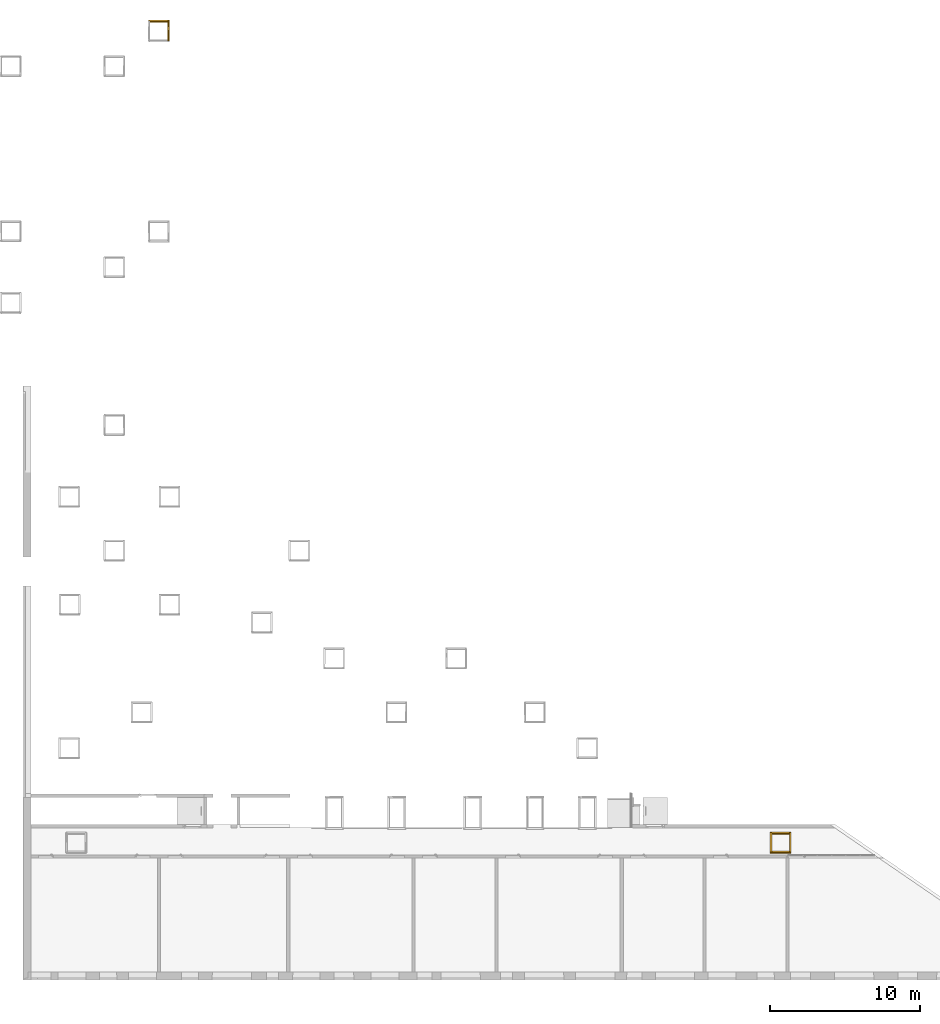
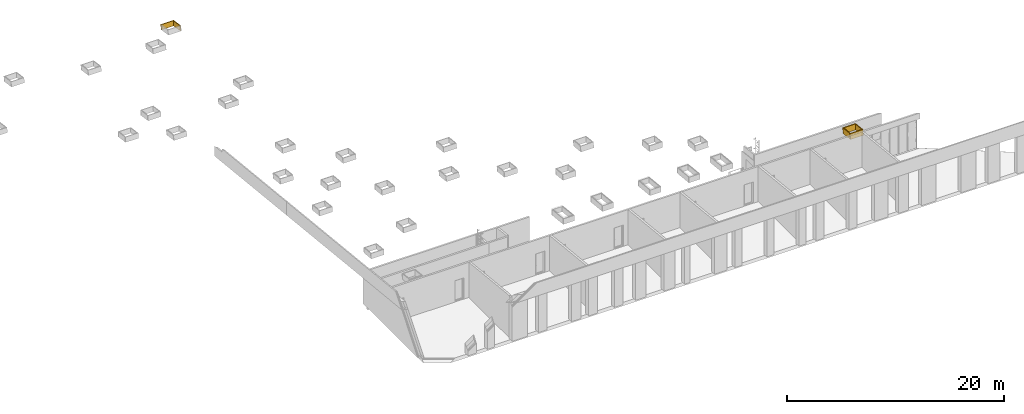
# One storey, part 22 of 23: 6 coverings.
"""IFC2X3 building model written with IfcOpenShell, lengths in millimetres."""

from ifc_helpers import new_model, entity, si_unit, converted_unit, derived_unit, money_unit, direction, frame, origin_with_axes, place, context, subcontext, project, spatial, faceted_brep, material, material_list, type_object, element, save


model = new_model("IFC2X3")

# Units and contexts
model_context = context("Model", 3, precision=0.01, world=origin_with_axes(), true_north=direction((0.0, 1.0)))
body_context = subcontext(model_context, "Body", "Model", "MODEL_VIEW")
ifc_project = project(units=[si_unit("LENGTHUNIT", "METRE", prefix="MILLI"), si_unit("AREAUNIT", "SQUARE_METRE"), si_unit("VOLUMEUNIT", "CUBIC_METRE"), converted_unit("PLANEANGLEUNIT", "DEGREE", entity("IfcPlaneAngleMeasure", 0.0174532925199), si_unit("PLANEANGLEUNIT", "RADIAN"), dimensions=[0, 0, 0, 0, 0, 0, 0]), si_unit("SOLIDANGLEUNIT", "STERADIAN"), money_unit("EUR"), converted_unit("TIMEUNIT", "Year", entity("IfcTimeMeasure", 31556926.0), si_unit("TIMEUNIT", "SECOND"), dimensions=[0, 0, 1, 0, 0, 0, 0]), si_unit("MASSUNIT", "GRAM", prefix="KILO"), si_unit("THERMODYNAMICTEMPERATUREUNIT", "DEGREE_CELSIUS"), si_unit("LUMINOUSINTENSITYUNIT", "LUMEN"), si_unit("ENERGYUNIT", "JOULE", prefix="MEGA"), derived_unit("THERMALCONDUCTANCEUNIT", [(si_unit("POWERUNIT", "WATT"), 1), (si_unit("LENGTHUNIT", "METRE"), -1), (si_unit("THERMODYNAMICTEMPERATUREUNIT", "KELVIN"), -1)]), derived_unit("SPECIFICHEATCAPACITYUNIT", [(si_unit("ENERGYUNIT", "JOULE"), 1), (si_unit("MASSUNIT", "GRAM", prefix="KILO"), -1), (si_unit("THERMODYNAMICTEMPERATUREUNIT", "KELVIN"), -1)]), derived_unit("MASSDENSITYUNIT", [(si_unit("MASSUNIT", "GRAM", prefix="KILO"), 1), (si_unit("VOLUMEUNIT", "CUBIC_METRE"), -1)])], contexts=[model_context])

# Site, building, storey
site_placement = place(None, origin_with_axes())
site = spatial("IfcSite", under=ifc_project, at=site_placement, Name="L.Koidula tn 11b", CompositionType="ELEMENT")
building_placement = place(site_placement, origin_with_axes())
building = spatial("IfcBuilding", under=site, at=building_placement, Name="Rakvere Riigigümnaasium", CompositionType="ELEMENT")
storey_placement = place(building_placement, frame((0.0, 0.0, 7440.0), z_axis=(0.0, 0.0, 1.0), x_axis=(1.0, 0.0, 0.0)))
storey = spatial("IfcBuildingStorey", under=building, at=storey_placement, Name="3.korrus +7,44", CompositionType="ELEMENT", Elevation=7440.0)

# Coverings
ifc_material_1 = material(Name="SKR-02_Kipsplaat")
ifc_material_2 = material(Name="mineraalvill+karkass")
ifc_material_list_1 = material_list([ifc_material_1, ifc_material_1, ifc_material_2])
covering_type = type_object("IfcCoveringType", Name="SA-2xkips 91", PredefinedType="NOTDEFINED")
covering_1_placement = place(storey_placement, frame((85920.1960522, 14659.9358778, 3149.115021), z_axis=(0.0, 0.0, 1.0), x_axis=(-1.0, 0.0, 0.0)))
element("IfcCovering", 1, at=covering_1_placement, inside=storey, type_object=covering_type, material=ifc_material_list_1, Name="Ava-pinnakate", PredefinedType="NOTDEFINED", context=body_context, shape_type="Brep", body=[
    faceted_brep([(1212.48869228, -78.3730372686, 626.084987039), (-12.5112151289, -78.3730372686, 626.084987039), (-12.5019195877, -13.4136312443, 8.03752339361), (1212.49807613, -13.4136312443, 8.03752339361), (-12.5094362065, -65.9415135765, 627.39159283), (1212.4904881, -65.9415135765, 627.39159283), (-12.5001406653, -0.982107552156, 9.34412918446), (1212.49987195, -0.982107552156, 9.34412918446)], [[[0, 1, 2, 3]], [[4, 1, 0, 5]], [[1, 4, 6, 2]], [[7, 3, 2, 6]], [[5, 0, 3, 7]], [[4, 5, 7, 6]]]),
    faceted_brep([(1224.98689659, -90.8045609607, 624.778381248), (-25.0129941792, -90.8045609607, 624.778381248), (-25.003698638, -25.8451549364, 6.73091760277), (1224.99628043, -25.8451549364, 6.73091760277), (-25.0112152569, -78.3730372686, 626.084987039), (1224.98869241, -78.3730372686, 626.084987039), (-25.0019197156, -13.4136312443, 8.03752339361), (1224.99807626, -13.4136312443, 8.03752339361)], [[[0, 1, 2, 3]], [[4, 1, 0, 5]], [[1, 4, 6, 2]], [[7, 3, 2, 6]], [[5, 0, 3, 7]], [[4, 5, 7, 6]]]),
    faceted_brep([(1290.97741533, -156.443006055, 617.879502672), (-91.0223875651, -156.443006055, 617.879502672), (-91.0130945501, -91.5012534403, 0.0), (1290.98679663, -91.5012534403, 0.0), (-91.012994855, -90.8045609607, 624.778381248), (1290.98689727, -90.8045609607, 624.778381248), (-91.0036993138, -25.8451549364, 6.73091760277), (-91.0128633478, -89.8855581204, 0.0), (1290.98703003, -89.8855581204, 0.0), (1290.99628112, -25.8451549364, 6.73091760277)], [[[0, 1, 2, 3]], [[4, 1, 0, 5]], [[1, 4, 6, 7, 2]], [[2, 7, 8, 3]], [[5, 0, 3, 8, 9]], [[4, 5, 9, 6]], [[9, 8, 7, 6]]]),
])
covering_2_placement = place(storey_placement, frame((84720.0237785, 13467.4708443, 3283.69533693), z_axis=(0.0, 0.0, 1.0), x_axis=(1.0, 0.0, 0.0)))
element("IfcCovering", 2, at=covering_2_placement, inside=storey, type_object=covering_type, material=ifc_material_list_1, Name="Ava-pinnakate", PredefinedType="NOTDEFINED", context=body_context, shape_type="Brep", body=[
    faceted_brep([(-12.4906132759, 64.9802177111, 618.245438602), (1212.51093339, 64.9802177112, 618.245438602), (1212.50163785, 0.0208080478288, 0.197975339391), (-12.4999971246, 0.020808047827, 0.197975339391), (1212.50915447, 52.5486903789, 619.552044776), (-12.4924090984, 52.5486903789, 619.552044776), (1212.49985893, -12.4107156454, 1.50458113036), (-12.5017929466, -12.4107156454, 1.50458113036)], [[[0, 1, 2, 3]], [[4, 1, 0, 5]], [[1, 4, 6, 2]], [[7, 3, 2, 6]], [[5, 0, 3, 7]], [[4, 5, 7, 6]]]),
    faceted_brep([(-24.9924092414, 52.5486903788, 619.552044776), (1225.00915462, 52.548690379, 619.552044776), (1224.9998596, -12.4107156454, 1.50458113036), (-25.0017917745, -12.4107156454, 1.50458113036), (1225.00737569, 40.1171666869, 620.858650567), (-24.9942050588, 40.1171666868, 620.858650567), (1224.99808067, -24.8422393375, 2.81118692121), (-25.0035875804, -24.8422393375, 2.81118692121)], [[[0, 1, 2, 3]], [[4, 1, 0, 5]], [[1, 4, 6, 2]], [[7, 3, 2, 6]], [[5, 0, 3, 7]], [[4, 5, 7, 6]]]),
    faceted_brep([(-90.9942057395, 40.1171666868, 620.858650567), (1291.00737565, 40.1171666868, 620.858650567), (1290.99808011, -24.8422393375, 2.81118692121), (-91.0035895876, -24.8422393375, 2.81118692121), (1290.99798294, -25.521279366, 627.757529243), (-91.0036876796, -25.521279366, 627.757529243), (1290.9886874, -90.4806844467, 9.71006549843), (-91.0130715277, -90.4806844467, 9.71006549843)], [[[0, 1, 2, 3]], [[4, 1, 0, 5]], [[1, 4, 6, 2]], [[7, 3, 2, 6]], [[5, 0, 3, 7]], [[4, 5, 7, 6]]]),
])
covering_3_placement = place(storey_placement, frame((84720.1960385, 14659.9358778, 3073.02705844), z_axis=(0.0, 0.0, 1.0), x_axis=(-0.000144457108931, -0.999999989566, 0.0)))
element("IfcCovering", 3, at=covering_3_placement, inside=storey, type_object=covering_type, material=ifc_material_list_1, Name="Ava-pinnakate", PredefinedType="NOTDEFINED", context=body_context, shape_type="Brep", body=[
    faceted_brep([(-65.9397085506, -12.5, 703.479555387), (-65.9415142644, -6.12530470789e-07, 703.479555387), (-0.9821075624, -9.12336872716e-09, 85.4320917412), (-0.980301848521, -12.5, 85.4320917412), (1127.48482762, -7.59143858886e-08, 828.913717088), (1127.48663334, -12.5, 828.913717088), (1192.44423797, -1.1750955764e-06, 210.866253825), (1192.44604368, -12.4999999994, 210.866253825)], [[[0, 1, 2, 3]], [[4, 1, 0, 5]], [[1, 4, 6, 2]], [[7, 3, 2, 6]], [[5, 0, 3, 7]], [[4, 5, 7, 6]]]),
    faceted_brep([(-78.3694266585, -25.0000006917, 702.172949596), (-78.3712323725, -12.5, 702.172949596), (-13.4118256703, -12.5, 84.1254859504), (-13.4100199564, -25.0000006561, 84.1254859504), (1139.9181608, -12.5, 830.220323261), (1139.91996651, -25.0000000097, 830.220323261), (1204.8775675, -12.5, 212.172859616), (1204.87937322, -24.9999985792, 212.172859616)], [[[0, 1, 2, 3]], [[4, 1, 0, 5]], [[1, 4, 6, 2]], [[7, 3, 2, 6]], [[5, 0, 3, 7]], [[4, 5, 7, 6]]]),
    faceted_brep([(-90.7914163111, -91.0, 700.866343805), (-90.8009504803, -25.0000006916, 700.866343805), (-25.8415437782, -25.000000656, 82.8188801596), (-25.832009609, -91.0, 82.8188801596), (1152.35149034, -25.0000000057, 831.526929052), (1152.36102451, -91.0, 831.526929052), (1217.31089704, -24.9999985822, 213.479465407), (1217.32043121, -91.0, 213.479465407)], [[[0, 1, 2, 3]], [[4, 1, 0, 5]], [[1, 4, 6, 2]], [[7, 3, 2, 6]], [[5, 0, 3, 7]], [[4, 5, 7, 6]]]),
])
ifc_material_list_2 = material_list([ifc_material_2, ifc_material_1, ifc_material_1])
covering_4_placement = place(storey_placement, frame((85920.1960522, 14659.9358778, 3073.02705844), z_axis=(0.0, 0.0, 1.0), x_axis=(-0.000143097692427, -0.999999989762, 0.0)))
element("IfcCovering", 4, at=covering_4_placement, inside=storey, type_object=covering_type, material=ifc_material_list_2, Name="Ava-pinnakate", PredefinedType="NOTDEFINED", context=body_context, shape_type="Brep", body=[
    faceted_brep([(-90.8081393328, 25.0000000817, 700.866343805), (-90.8175837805, 91.0, 700.866343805), (-25.8581770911, 91.0, 82.8188801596), (-25.8487326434, 25.0000006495, 82.8188801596), (1152.33485679, 90.9999993, 831.526929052), (1152.34430124, 25.0000000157, 831.526929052), (1217.29426348, 90.9999993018, 213.479465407), (1217.30370793, 25.0000005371, 213.479465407)], [[[0, 1, 2, 3]], [[4, 1, 0, 5]], [[1, 4, 6, 2]], [[7, 3, 2, 6]], [[5, 0, 3, 7]], [[4, 5, 7, 6]]]),
    faceted_brep([(-78.3748267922, 12.5, 702.172949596), (-78.3766155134, 25.0000000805, 702.172949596), (-13.417208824, 25.0000006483, 84.1254859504), (-13.4154201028, 12.5, 84.1254859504), (1139.91277742, 25.0000000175, 830.220323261), (1139.91456614, 12.5, 830.220323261), (1204.87218411, 25.0000005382, 212.172859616), (1204.87397283, 12.5, 212.172859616)], [[[0, 1, 2, 3]], [[4, 1, 0, 5]], [[1, 4, 6, 2]], [[7, 3, 2, 6]], [[5, 0, 3, 7]], [[4, 5, 7, 6]]]),
    faceted_brep([(-65.9415142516, 0.0, 703.479555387), (-65.9432833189, 12.5, 703.479557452), (-0.982153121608, 12.5, 85.4322749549), (-0.982107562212, 0.0, 85.4320917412), (1127.4830847, 12.5, 828.913721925), (1127.4848274, 0.0, 828.913717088), (1192.44421764, 12.5, 210.866439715), (1192.44423773, 0.0, 210.866253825)], [[[0, 1, 2, 3]], [[4, 1, 0, 5]], [[1, 4, 6, 2]], [[7, 3, 2, 6]], [[5, 0, 3, 7]], [[4, 5, 7, 6]]]),
])
covering_5_placement = place(storey_placement, frame((44599.9999078, 68598.2457403, -3443.46783697), z_axis=(0.0, 0.0, 1.0), x_axis=(-1.0, 0.0, 0.0)))
element("IfcCovering", 5, at=covering_5_placement, inside=storey, type_object=covering_type, material=ifc_material_list_1, Name="Ava-pinnakate", PredefinedType="NOTDEFINED", context=body_context, shape_type="Brep", body=[
    faceted_brep([(-12.5006758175, -4.72187596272, 33.1776298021), (-12.5024466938, -17.0971716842, 31.4163644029), (-12.5134970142, -94.3193830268, 574.007902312), (-12.5117261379, -81.9440873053, 575.769167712), (1212.49754401, -17.0971716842, 31.4163644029), (1212.49933171, -4.72187596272, 33.1776298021), (1212.48638871, -94.3193830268, 574.007902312), (1212.48817641, -81.9440873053, 575.769167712)], [[[0, 1, 2, 3]], [[4, 1, 0, 5]], [[1, 4, 6, 2]], [[7, 3, 2, 6]], [[5, 0, 3, 7]], [[4, 5, 7, 6]]]),
    faceted_brep([(-25.0024468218, -17.0971716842, 31.4163644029), (-25.0042176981, -29.4724674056, 29.6550990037), (-25.0152680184, -106.694678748, 572.246636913), (-25.0134971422, -94.3193830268, 574.007902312), (1224.99575644, -29.4724674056, 29.6550990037), (1224.99754414, -17.0971716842, 31.4163644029), (1224.98460115, -106.694678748, 572.246636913), (1224.98638884, -94.3193830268, 574.007902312)], [[[0, 1, 2, 3]], [[4, 1, 0, 5]], [[1, 4, 6, 2]], [[7, 3, 2, 6]], [[5, 0, 3, 7]], [[4, 5, 7, 6]]]),
    faceted_brep([(-91.0042183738, -29.4724674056, 29.6550990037), (-91.0135686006, -94.8140288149, 20.3556176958), (-91.0246189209, -172.036240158, 562.947155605), (-91.0152686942, -106.694678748, 572.246636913), (1290.98631808, -94.8140288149, 20.3556176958), (1290.99575713, -29.4724674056, 29.6550990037), (1290.97516278, -172.036240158, 562.947155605), (1290.98460183, -106.694678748, 572.246636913)], [[[0, 1, 2, 3]], [[4, 1, 0, 5]], [[1, 4, 6, 2]], [[7, 3, 2, 6]], [[5, 0, 3, 7]], [[4, 5, 7, 6]]]),
])
covering_6_placement = place(storey_placement, frame((44599.9999078, 68598.2457403, -3519.55579953), z_axis=(0.0, 0.0, 1.0), x_axis=(-0.000143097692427, -0.999999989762, 0.0)))
element("IfcCovering", 6, at=covering_6_placement, inside=storey, type_object=covering_type, material=ifc_material_list_2, Name="Ava-pinnakate", PredefinedType="NOTDEFINED", context=body_context, shape_type="Brep", body=[
    faceted_brep([(1207.5798994, 90.9999993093, 281.803536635), (-29.4854895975, 91.0, 105.74306156), (-106.707701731, 91.0, 648.33459947), (1130.35768727, 90.9999993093, 824.395074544), (-29.4760451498, 25.0000006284, 105.74306156), (1207.58934385, 25.0000004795, 281.803536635), (-106.698257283, 25.00000013, 648.33459947), (1130.36713172, 25.0000000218, 824.395074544)], [[[0, 1, 2, 3]], [[4, 1, 0, 5]], [[1, 4, 6, 2]], [[7, 3, 2, 6]], [[5, 0, 3, 7]], [[4, 5, 7, 6]]]),
    faceted_brep([(1195.214048, 25.0000004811, 280.042271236), (-17.1007493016, 25.0000006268, 107.50432696), (-94.3229614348, 25.0000001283, 650.095864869), (1117.99183587, 25.000000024, 822.633809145), (-17.0989605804, 12.5, 107.50432696), (1195.21583672, 12.5, 280.042271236), (-94.3211727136, 12.5, 650.095864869), (1117.99362459, 12.5, 822.633809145)], [[[0, 1, 2, 3]], [[4, 1, 0, 5]], [[1, 4, 6, 2]], [[7, 3, 2, 6]], [[5, 0, 3, 7]], [[4, 5, 7, 6]]]),
    faceted_brep([(1182.84210744, 12.5, 278.281228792), (-4.72200315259, 12.5, 109.265828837), (-81.9457147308, 12.5, 651.857153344), (1105.6183975, 12.5, 820.872553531), (-4.72187601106, 0.0, 109.265592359), (1182.8423297, 0.0, 278.281005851), (-81.9440881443, 0.0, 651.857130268), (1105.6201184, 0.0, 820.87254388)], [[[0, 1, 2, 3]], [[4, 1, 0, 5]], [[1, 4, 6, 2]], [[7, 3, 2, 6]], [[5, 0, 3, 7]], [[4, 5, 7, 6]]]),
])

save(model, "model.ifc")
